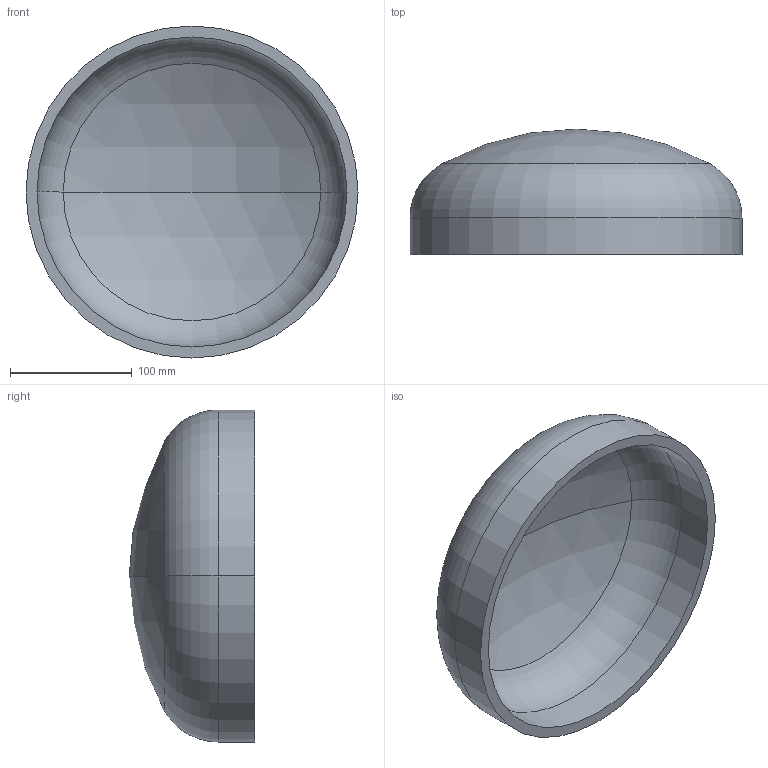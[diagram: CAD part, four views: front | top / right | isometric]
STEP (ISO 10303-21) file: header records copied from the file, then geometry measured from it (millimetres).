
FILE_DESCRIPTION (( 'STEP AP203' ), '1' );
FILE_NAME ('DIN 28013 Korbbogenform_-_Boden DIN 28013 - 273 x 30 - I - s=9.step', '2016-07-01T07:42:58', ( '' ), ( '' ), 'SwSTEP 2.0', 'SolidWorks 2013', '' );
FILE_SCHEMA (( 'CONFIG_CONTROL_DESIGN' ));
Length unit declared in the file: millimetre
Products named in the file (1): DIN 28013 Korbbogenform_-_Boden DIN 28013 - 273 x 30 - I - s=9
Bounding box: 273 x 103.16 x 273 mm (x, y, z)
Volume: 922829.5 mm3; surface area: 212707.2 mm2
Topology: 1 solids, 1 shells, 13 faces, 24 edges, 14 vertices
Faces by surface type: torus 4, cylinder 4, sphere 4, plane 1
Entity records: 407 total; most frequent: DIRECTION 72, CARTESIAN_POINT 52, ORIENTED_EDGE 48, AXIS2_PLACEMENT_3D 34, EDGE_CURVE 24, CIRCLE 20, EDGE_LOOP 14, VERTEX_POINT 14
